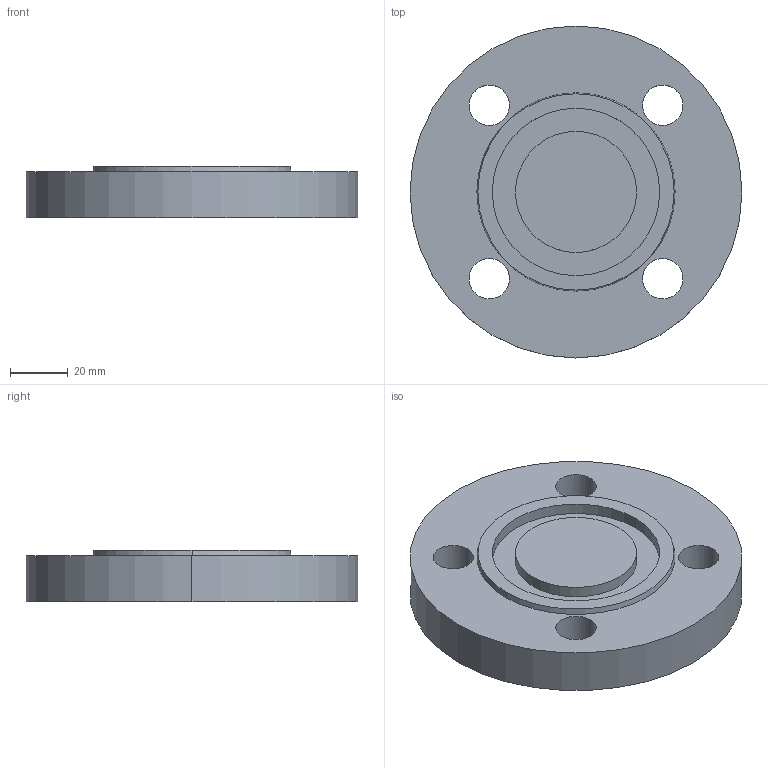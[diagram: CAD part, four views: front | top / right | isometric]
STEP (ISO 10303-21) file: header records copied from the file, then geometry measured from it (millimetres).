
FILE_DESCRIPTION (( 'STEP AP214' ), '1' );
FILE_NAME ('PN40 DN25 Type 05 - Type D Face.STEP', '2018-12-29T20:34:50', ( '' ), ( '' ), 'SwSTEP 2.0', 'SolidWorks 2019', '' );
FILE_SCHEMA (( 'AUTOMOTIVE_DESIGN' ));
Length unit declared in the file: millimetre
Products named in the file (1): PN40 DN25 Type 05 - Type D Face
Bounding box: 115 x 115 x 18 mm (x, y, z)
Volume: 158650.6 mm3; surface area: 29754.7 mm2
Topology: 1 solids, 1 shells, 21 faces, 48 edges, 32 vertices
Faces by surface type: cylinder 14, plane 5, cone 2
Entity records: 664 total; most frequent: DIRECTION 124, CARTESIAN_POINT 102, ORIENTED_EDGE 96, AXIS2_PLACEMENT_3D 54, EDGE_CURVE 48, CIRCLE 32, EDGE_LOOP 32, VERTEX_POINT 32
